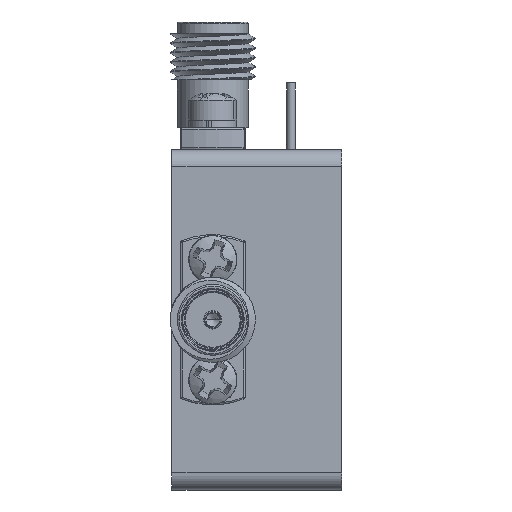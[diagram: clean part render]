
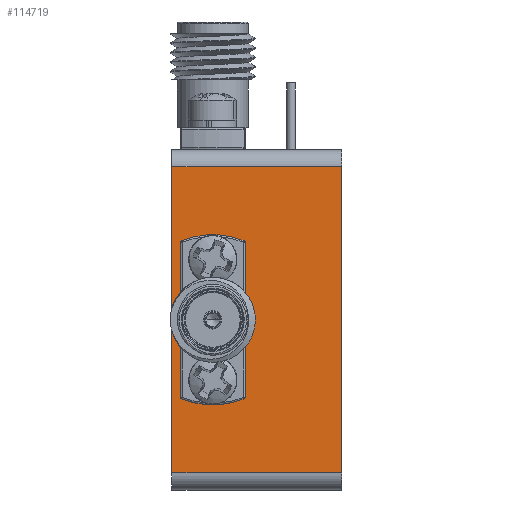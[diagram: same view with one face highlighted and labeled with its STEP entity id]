
A CAD part, left-side view. The second image highlights one B-rep face of the part: STEP entity #114719.
In plain terms, the highlighted planar face has unit normal (-1, 0, 0).
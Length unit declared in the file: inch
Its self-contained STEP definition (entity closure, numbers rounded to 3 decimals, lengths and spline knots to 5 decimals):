
#700 = DIRECTION ( 'NONE',  ( 0., 0., -1. ) ) ;
#3237 = DIRECTION ( 'NONE',  ( -1., 0., 0. ) ) ;
#7756 = VERTEX_POINT ( 'NONE', #124496 ) ;
#9718 = CARTESIAN_POINT ( 'NONE',  ( -0.6, 0.379, -0.22 ) ) ;
#9904 = CIRCLE ( 'NONE', #12051, 0.0505 ) ;
#11132 = DIRECTION ( 'NONE',  ( 0., 0., 1. ) ) ;
#11182 = DIRECTION ( 'NONE',  ( 1., 0., 0. ) ) ;
#12051 = AXIS2_PLACEMENT_3D ( 'NONE', #75591, #53232, #123394 ) ;
#12808 = CARTESIAN_POINT ( 'NONE',  ( -0.6, 0.379, 0.0505 ) ) ;
#13270 = CIRCLE ( 'NONE', #82995, 0.0505 ) ;
#13530 = ORIENTED_EDGE ( 'NONE', *, *, #45543, .F. ) ;
#17647 = CARTESIAN_POINT ( 'NONE',  ( -0.6, 0.379, 0. ) ) ;
#18279 = DIRECTION ( 'NONE',  ( 0., 0., 1. ) ) ;
#18361 = DIRECTION ( 'NONE',  ( 0., 0., 1. ) ) ;
#18838 = CIRCLE ( 'NONE', #63180, 0.043 ) ;
#19385 = ORIENTED_EDGE ( 'NONE', *, *, #109292, .T. ) ;
#20966 = DIRECTION ( 'NONE',  ( -1., 0., 0. ) ) ;
#21084 = CARTESIAN_POINT ( 'NONE',  ( -0.6, 0.499, -0.45 ) ) ;
#27669 = ORIENTED_EDGE ( 'NONE', *, *, #84608, .F. ) ;
#28537 = VERTEX_POINT ( 'NONE', #58360 ) ;
#29059 = FACE_OUTER_BOUND ( 'NONE', #121938, .T. ) ;
#29483 = ORIENTED_EDGE ( 'NONE', *, *, #118632, .F. ) ;
#30896 = EDGE_CURVE ( 'NONE', #94021, #76152, #37524, .T. ) ;
#31777 = EDGE_CURVE ( 'NONE', #101019, #76152, #38825, .T. ) ;
#33751 = CARTESIAN_POINT ( 'NONE',  ( -0.6, 0.379, 0.178 ) ) ;
#37524 = LINE ( 'NONE', #79792, #93582 ) ;
#37618 = CARTESIAN_POINT ( 'NONE',  ( -0.6, 0., 0.45 ) ) ;
#38177 = CARTESIAN_POINT ( 'NONE',  ( -0.6, 0., -0.45 ) ) ;
#38825 = LINE ( 'NONE', #38177, #110453 ) ;
#39229 = AXIS2_PLACEMENT_3D ( 'NONE', #101754, #20966, #51394 ) ;
#41391 = CARTESIAN_POINT ( 'NONE',  ( -0.6, 0.499, -0.45 ) ) ;
#42787 = VECTOR ( 'NONE', #91879, 39.37008 ) ;
#43861 = CARTESIAN_POINT ( 'NONE',  ( -0.6, 0.499, -0.45 ) ) ;
#45543 = EDGE_CURVE ( 'NONE', #77067, #28537, #115351, .T. ) ;
#46863 = CARTESIAN_POINT ( 'NONE',  ( -0.6, 0.499, 0.45 ) ) ;
#50277 = ORIENTED_EDGE ( 'NONE', *, *, #31777, .T. ) ;
#51394 = DIRECTION ( 'NONE',  ( 0., 0., 1. ) ) ;
#51608 = ORIENTED_EDGE ( 'NONE', *, *, #30896, .F. ) ;
#53232 = DIRECTION ( 'NONE',  ( -1., 0., 0. ) ) ;
#55491 = ORIENTED_EDGE ( 'NONE', *, *, #101940, .F. ) ;
#55581 = DIRECTION ( 'NONE',  ( -1., 0., 0. ) ) ;
#58360 = CARTESIAN_POINT ( 'NONE',  ( -0.6, 0.379, -0.134 ) ) ;
#58707 = DIRECTION ( 'NONE',  ( 0., -1., 0. ) ) ;
#60859 = VERTEX_POINT ( 'NONE', #107075 ) ;
#63180 = AXIS2_PLACEMENT_3D ( 'NONE', #96348, #117518, #67116 ) ;
#64699 = ORIENTED_EDGE ( 'NONE', *, *, #114099, .F. ) ;
#64704 = VERTEX_POINT ( 'NONE', #12808 ) ;
#64997 = LINE ( 'NONE', #43861, #113624 ) ;
#66439 = EDGE_LOOP ( 'NONE', ( #113561, #13530 ) ) ;
#67116 = DIRECTION ( 'NONE',  ( 0., 0., 1. ) ) ;
#73029 = VERTEX_POINT ( 'NONE', #77944 ) ;
#75591 = CARTESIAN_POINT ( 'NONE',  ( -0.6, 0.379, 0. ) ) ;
#75621 = AXIS2_PLACEMENT_3D ( 'NONE', #33751, #55581, #104651 ) ;
#76152 = VERTEX_POINT ( 'NONE', #37618 ) ;
#77067 = VERTEX_POINT ( 'NONE', #9718 ) ;
#77944 = CARTESIAN_POINT ( 'NONE',  ( -0.6, 0.379, -0.0505 ) ) ;
#77986 = FACE_BOUND ( 'NONE', #66439, .T. ) ;
#79792 = CARTESIAN_POINT ( 'NONE',  ( -0.6, 0.499, 0.45 ) ) ;
#82773 = AXIS2_PLACEMENT_3D ( 'NONE', #93205, #11182, #700 ) ;
#82995 = AXIS2_PLACEMENT_3D ( 'NONE', #17647, #88398, #18279 ) ;
#84608 = EDGE_CURVE ( 'NONE', #73029, #64704, #9904, .T. ) ;
#87017 = ORIENTED_EDGE ( 'NONE', *, *, #107155, .F. ) ;
#87134 = EDGE_LOOP ( 'NONE', ( #55491, #29483 ) ) ;
#88398 = DIRECTION ( 'NONE',  ( -1., 0., 0. ) ) ;
#91879 = DIRECTION ( 'NONE',  ( 0., 0., 1. ) ) ;
#92164 = AXIS2_PLACEMENT_3D ( 'NONE', #123607, #3237, #11132 ) ;
#93205 = CARTESIAN_POINT ( 'NONE',  ( -0.6, 0.499, -0.45 ) ) ;
#93582 = VECTOR ( 'NONE', #58707, 39.37008 ) ;
#94021 = VERTEX_POINT ( 'NONE', #46863 ) ;
#96348 = CARTESIAN_POINT ( 'NONE',  ( -0.6, 0.379, 0.178 ) ) ;
#96887 = CIRCLE ( 'NONE', #75621, 0.043 ) ;
#97929 = EDGE_LOOP ( 'NONE', ( #87017, #27669 ) ) ;
#101019 = VERTEX_POINT ( 'NONE', #123266 ) ;
#101754 = CARTESIAN_POINT ( 'NONE',  ( -0.6, 0.379, -0.177 ) ) ;
#101940 = EDGE_CURVE ( 'NONE', #7756, #60859, #96887, .T. ) ;
#104651 = DIRECTION ( 'NONE',  ( 0., 0., 1. ) ) ;
#107048 = CIRCLE ( 'NONE', #92164, 0.043 ) ;
#107075 = CARTESIAN_POINT ( 'NONE',  ( -0.6, 0.379, 0.135 ) ) ;
#107155 = EDGE_CURVE ( 'NONE', #64704, #73029, #13270, .T. ) ;
#108555 = FACE_BOUND ( 'NONE', #97929, .T. ) ;
#109292 = EDGE_CURVE ( 'NONE', #119107, #101019, #64997, .T. ) ;
#109866 = PLANE ( 'NONE',  #82773 ) ;
#110453 = VECTOR ( 'NONE', #18361, 39.37008 ) ;
#111790 = LINE ( 'NONE', #21084, #42787 ) ;
#113561 = ORIENTED_EDGE ( 'NONE', *, *, #129933, .F. ) ;
#113624 = VECTOR ( 'NONE', #124618, 39.37008 ) ;
#114099 = EDGE_CURVE ( 'NONE', #119107, #94021, #111790, .T. ) ;
#114719 = ADVANCED_FACE ( 'NONE', ( #77986, #119758, #108555, #29059 ), #109866, .F. ) ;
#115351 = CIRCLE ( 'NONE', #39229, 0.043 ) ;
#117518 = DIRECTION ( 'NONE',  ( -1., 0., 0. ) ) ;
#118632 = EDGE_CURVE ( 'NONE', #60859, #7756, #18838, .T. ) ;
#119107 = VERTEX_POINT ( 'NONE', #41391 ) ;
#119758 = FACE_BOUND ( 'NONE', #87134, .T. ) ;
#121938 = EDGE_LOOP ( 'NONE', ( #50277, #51608, #64699, #19385 ) ) ;
#123266 = CARTESIAN_POINT ( 'NONE',  ( -0.6, 0., -0.45 ) ) ;
#123394 = DIRECTION ( 'NONE',  ( 0., 0., 1. ) ) ;
#123607 = CARTESIAN_POINT ( 'NONE',  ( -0.6, 0.379, -0.177 ) ) ;
#124496 = CARTESIAN_POINT ( 'NONE',  ( -0.6, 0.379, 0.221 ) ) ;
#124618 = DIRECTION ( 'NONE',  ( 0., -1., 0. ) ) ;
#129933 = EDGE_CURVE ( 'NONE', #28537, #77067, #107048, .T. ) ;
